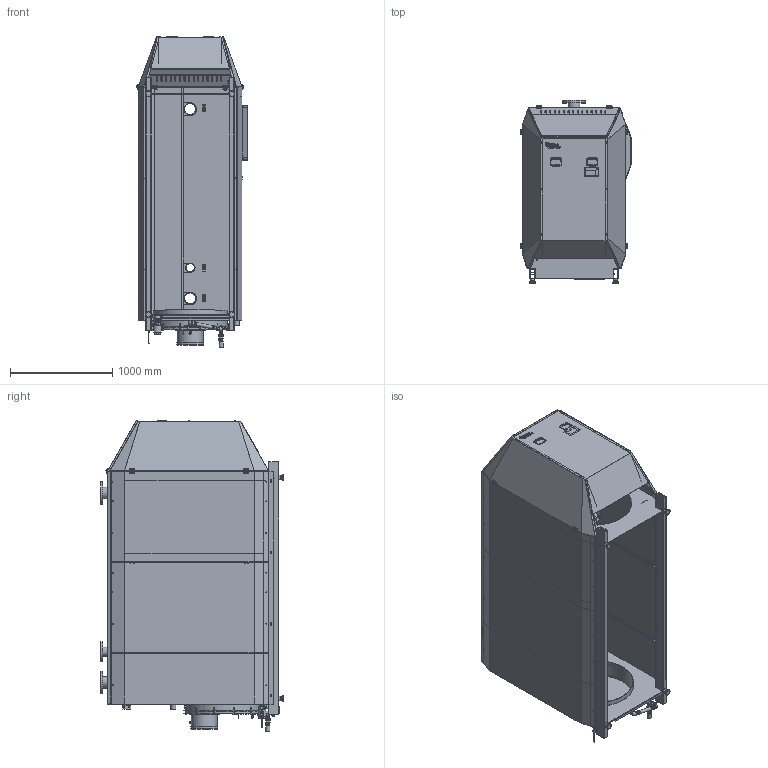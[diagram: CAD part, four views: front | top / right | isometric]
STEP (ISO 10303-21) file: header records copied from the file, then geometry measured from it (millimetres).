
FILE_DESCRIPTION (( 'STEP AP203' ), '1' );
FILE_NAME ('PMX 600-E.STEP', '2019-03-08T08:26:34', ( '' ), ( '' ), 'SwSTEP 2.0', 'SolidWorks 2019', '' );
FILE_SCHEMA (( 'CONFIG_CONTROL_DESIGN' ));
Products named in the file (1): PMX 600-E
Bounding box: 1087.46 x 1788 x 3036.71 mm (x, y, z)
Surface area: 36033087.5 mm2 (no closed solid volume)
Topology: 0 solids, 470 shells, 1606 faces, 9322 edges, 8004 vertices
Faces by surface type: plane 888, cylinder 435, torus 149, cone 60, bspline 50, sphere 24
Full cylindrical faces by diameter (mm): 4 x2, 5 x3, 5.5 x1, 6 x3, 6.9 x4, 8 x16, 13 x3, 14 x11, 17 x2, 17.2 x1, 18 x21, 18.8 x1, 21 x1, 22.225 x2, 25 x2, 25.4 x1, 26.4 x1, 30 x1, 32 x1, 32.5 x4, 34 x4, 36 x8, 36.5 x3, 38 x1, 40 x8, 44 x1, 45 x3, 47.9 x2, 48 x1, 48.3 x2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
Entity records: 102521 total; most frequent: CARTESIAN_POINT 35875, DIRECTION 12741, ORIENTED_EDGE 10429, EDGE_CURVE 8887, VERTEX_POINT 7887, VECTOR 5261, LINE 5261, AXIS2_PLACEMENT_3D 3740
